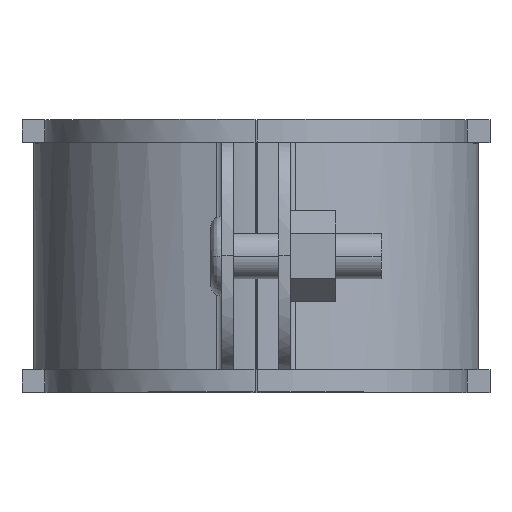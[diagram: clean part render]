
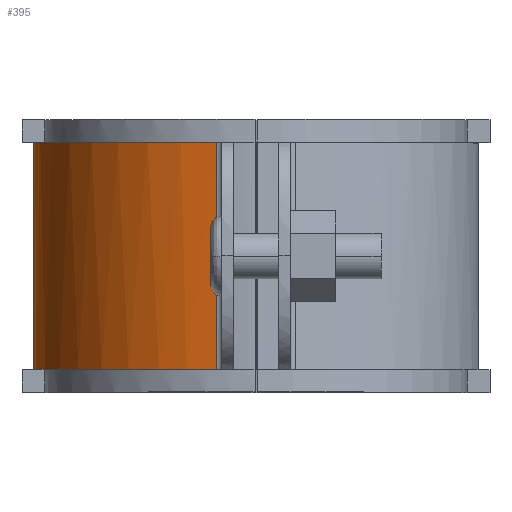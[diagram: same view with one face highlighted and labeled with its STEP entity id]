
A CAD part, top view. The second image highlights one B-rep face of the part: STEP entity #395.
In plain terms, the highlighted free-form (B-spline) face has degree [3, 1] with [4, 2] control points.
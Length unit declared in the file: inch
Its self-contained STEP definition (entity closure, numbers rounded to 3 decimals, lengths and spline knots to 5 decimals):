
#395=ADVANCED_FACE('',(#1056),#1057,.T.);
#631=EDGE_CURVE('',#986,#1114,#1420,.T.);
#679=EDGE_CURVE('',#1488,#986,#1489,.T.);
#737=EDGE_CURVE('',#1488,#1257,#1563,.T.);
#877=EDGE_CURVE('',#1114,#1257,#1738,.T.);
#986=VERTEX_POINT('',#1869);
#1056=FACE_OUTER_BOUND('',#2027,.T.);
#1057=B_SPLINE_SURFACE_WITH_KNOTS('',3,1,((#2028,#2029),(#2030,#2031),(#2032,#2033),(#2034,#2035)),.UNSPECIFIED.,.F.,.F.,.F.,(4,4),(2,2),(-1.0,-0.0),(0.0,1.25),.UNSPECIFIED.);
#1114=VERTEX_POINT('',#2116);
#1257=VERTEX_POINT('',#2453);
#1420=LINE('',#2809,#2810);
#1488=VERTEX_POINT('',#2988);
#1489=B_SPLINE_CURVE_WITH_KNOTS('',3,(#2989,#2990,#2991,#2992),.UNSPECIFIED.,.F.,.F.,(4,4),(-1.0,-0.0),.UNSPECIFIED.);
#1563=LINE('',#3132,#3133);
#1738=B_SPLINE_CURVE_WITH_KNOTS('',3,(#3454,#3455,#3456,#3457),.UNSPECIFIED.,.F.,.F.,(4,4),(0.0,1.0),.UNSPECIFIED.);
#1869=CARTESIAN_POINT('',(0.00012,1.24627,1.90282));
#2027=EDGE_LOOP('',(#3709,#3710,#3711,#3712));
#2028=CARTESIAN_POINT('',(1.0062,1.25,3.10662));
#2029=CARTESIAN_POINT('',(1.0062,0.0,3.10662));
#2030=CARTESIAN_POINT('',(0.43491,1.25,3.0033));
#2031=CARTESIAN_POINT('',(0.43491,0.0,3.0033));
#2032=CARTESIAN_POINT('',(0.00012,1.25,2.50364));
#2033=CARTESIAN_POINT('',(0.00012,0.0,2.50364));
#2034=CARTESIAN_POINT('',(0.00012,1.25,1.90282));
#2035=CARTESIAN_POINT('',(0.00012,0.0,1.90282));
#2116=CARTESIAN_POINT('',(0.00012,0.0,1.90282));
#2453=CARTESIAN_POINT('',(1.0062,0.0,3.10662));
#2809=CARTESIAN_POINT('',(0.00012,1.25,1.90282));
#2810=VECTOR('',#4283,1.0);
#2988=CARTESIAN_POINT('',(1.0062,1.24627,3.10662));
#2989=CARTESIAN_POINT('',(1.0062,1.24627,3.10662));
#2990=CARTESIAN_POINT('',(0.43491,1.24627,3.0033));
#2991=CARTESIAN_POINT('',(0.00012,1.24627,2.50364));
#2992=CARTESIAN_POINT('',(0.00012,1.24627,1.90282));
#3132=CARTESIAN_POINT('',(1.0062,1.25,3.10662));
#3133=VECTOR('',#4529,1.0);
#3454=CARTESIAN_POINT('',(0.00012,0.0,1.90282));
#3455=CARTESIAN_POINT('',(0.00012,0.0,2.50364));
#3456=CARTESIAN_POINT('',(0.43491,0.0,3.0033));
#3457=CARTESIAN_POINT('',(1.0062,0.0,3.10662));
#3709=ORIENTED_EDGE('',*,*,#679,.T.);
#3710=ORIENTED_EDGE('',*,*,#631,.T.);
#3711=ORIENTED_EDGE('',*,*,#877,.T.);
#3712=ORIENTED_EDGE('',*,*,#737,.F.);
#4283=DIRECTION('',(0.0,-1.0,0.0));
#4529=DIRECTION('',(0.0,-1.0,0.0));
